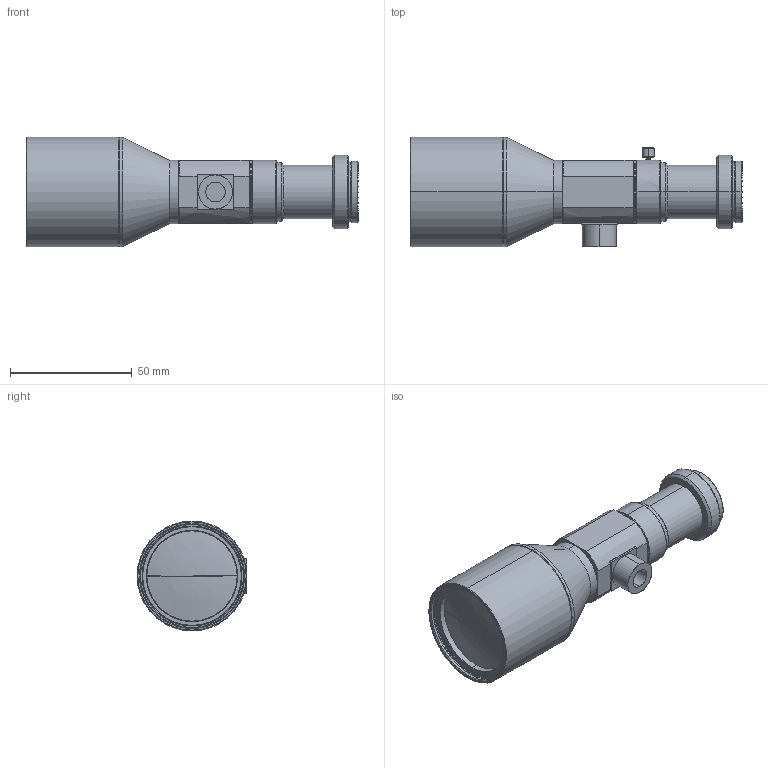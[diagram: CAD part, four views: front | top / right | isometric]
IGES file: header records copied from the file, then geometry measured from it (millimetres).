
Start section: SolidWorks IGES file using analytic representation for surfaces
Bounding box: 136.17 x 45 x 45 mm (x, y, z)
Surface area: 19217.5 mm2 (no closed solid volume)
Topology: 0 solids, 0 shells, 152 faces, 1894 edges, 1892 vertices
Faces by surface type: revolution 122, bspline 30
